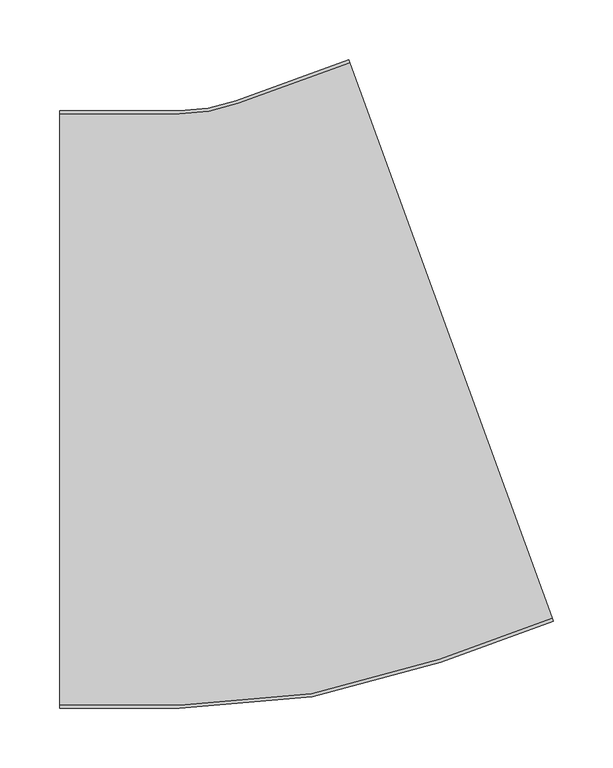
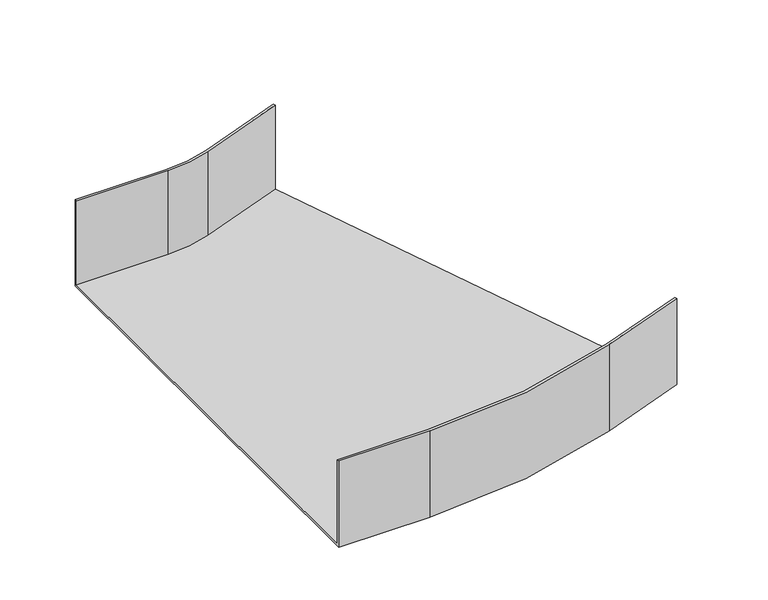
"""IFC4 building model written with IfcOpenShell, lengths in millimetres: cable carrier fitting geometry, BAKS_Horizontal bend radius : KKPP/KKMPP_H100."""

import ifcopenshell
import ifcopenshell.guid

model = None  # the IFC model being written
_history = None  # IfcOwnerHistory: only IFC2X3 demands one
_inside = {}  # id of a spatial element -> (the spatial element, [elements in it])
_under = {}  # id of a project, library or spatial element -> (it, [spatial elements below it])
_declared = {}  # id of a project -> (the project, [libraries it declares])
_typed = {}  # id of a type object -> (the type object, [elements of that type])
_made_of = {}  # id of a material, layer set ... -> (it, [elements and type objects made of it])


def new_model(schema):
    """Start an empty IFC model of exactly this schema.

    Asked for "IFC4X3", IfcOpenShell would pick the latest addendum, in which some entities
    have other attributes; the version numbers below select the first issue.
    IFC2X3 requires an IfcOwnerHistory on every rooted entity: one is made here for all.
    """
    global model, _history
    if schema == "IFC4X3":
        model = ifcopenshell.file(schema_version=(4, 3, 0, 0))
    else:
        model = ifcopenshell.file(schema=schema)
    _inside.clear()
    _under.clear()
    _declared.clear()
    _typed.clear()
    _made_of.clear()
    _history = None
    if model.schema == "IFC2X3":
        org = make("IfcOrganization", Name="unknown")
        user = make(
            "IfcPersonAndOrganization",
            ThePerson=make("IfcPerson", FamilyName="unknown"),
            TheOrganization=org,
        )
        app = make(
            "IfcApplication",
            ApplicationDeveloper=org,
            Version="unknown",
            ApplicationFullName="unknown",
            ApplicationIdentifier="unknown",
        )
        _history = make(
            "IfcOwnerHistory",
            OwningUser=user,
            OwningApplication=app,
            ChangeAction="ADDED",
            CreationDate=0,
        )
    return model


def make(cls, **values):
    """One entity of the class cls with the attributes given. An attribute that is None is left unset."""
    return model.create_entity(
        cls, **{name: value for name, value in values.items() if value is not None}
    )


def rooted(cls, **values):
    """An entity with a GlobalId (a new one), such as an element, a storey or a relation."""
    return make(cls, GlobalId=ifcopenshell.guid.new(), OwnerHistory=_history, **values)


def si_unit(unit_type, name, prefix=None):
    """IfcSIUnit, for example si_unit("LENGTHUNIT", "METRE", prefix="MILLI")."""
    return make("IfcSIUnit", UnitType=unit_type, Prefix=prefix, Name=name)


def assignment(units):
    """IfcUnitAssignment: the units of a project."""
    return None if units is None else make("IfcUnitAssignment", Units=units)


def point(xyz):
    """IfcCartesianPoint."""
    return None if xyz is None else make("IfcCartesianPoint", Coordinates=xyz)


def direction(xyz):
    """IfcDirection."""
    return None if xyz is None else make("IfcDirection", DirectionRatios=xyz)


def frame(location, z_axis=None, x_axis=None):
    """IfcAxis2Placement3D, a coordinate frame: its origin and axes. An axis left out is left unset."""
    return make(
        "IfcAxis2Placement3D",
        Location=point(location),
        Axis=direction(z_axis),
        RefDirection=direction(x_axis),
    )


def origin():
    """The frame at (0, 0, 0) with its axes left unset."""
    return frame((0.0, 0.0, 0.0))


def place(relative_to, where):
    """IfcLocalPlacement: puts the frame where relative to a parent placement (None: the world)."""
    return make(
        "IfcLocalPlacement", PlacementRelTo=relative_to, RelativePlacement=where
    )


def context(
    kind, dimensions, precision=None, world=None, true_north=None, identifier=None
):
    """IfcGeometricRepresentationContext, for example the 3D "Model" context."""
    return make(
        "IfcGeometricRepresentationContext",
        ContextIdentifier=identifier,
        ContextType=kind,
        CoordinateSpaceDimension=dimensions,
        Precision=precision,
        WorldCoordinateSystem=world,
        TrueNorth=true_north,
    )


def project(units=None, contexts=None):
    """IfcProject with its units and contexts."""
    return rooted(
        "IfcProject",
        Name="project",
        RepresentationContexts=contexts,
        UnitsInContext=assignment(units),
    )


def spatial(cls, under=None, at=None, **own):
    """A site, building, storey or space (cls), placed at a placement, below another one or the project."""
    s = rooted(cls, ObjectPlacement=at, **own)
    if under is not None:
        _under.setdefault(under.id(), (under, []))[1].append(s)
    return s


def polyline(points):
    """IfcPolyline through the points."""
    return make("IfcPolyline", Points=[point(p) for p in points])


def circle_curve(where, radius):
    """IfcCircle in the frame where."""
    return make("IfcCircle", Position=where, Radius=radius)


def shape(context_of_items, identifier, shape_type, items):
    """IfcShapeRepresentation: the items that make up one representation, for example the "Body"."""
    return make(
        "IfcShapeRepresentation",
        ContextOfItems=context_of_items,
        RepresentationIdentifier=identifier,
        RepresentationType=shape_type,
        Items=items,
    )


def source(mapping_origin, context_of_items, identifier, shape_type, items):
    """IfcRepresentationMap: a shape defined once, which mapped items show again and again."""
    return make(
        "IfcRepresentationMap",
        MappingOrigin=mapping_origin,
        MappedRepresentation=shape(context_of_items, identifier, shape_type, items),
    )


def transform(
    local_origin,
    x_axis=None,
    y_axis=None,
    z_axis=None,
    scale=None,
    scale2=None,
    scale3=None,
    uniform=True,
):
    """IfcCartesianTransformationOperator3D, or its non-uniform kind. x_axis, y_axis, z_axis: its Axis1, 2, 3."""
    if uniform:
        return make(
            "IfcCartesianTransformationOperator3D",
            Axis1=direction(x_axis),
            Axis2=direction(y_axis),
            LocalOrigin=point(local_origin),
            Scale=scale,
            Axis3=direction(z_axis),
        )
    return make(
        "IfcCartesianTransformationOperator3DnonUniform",
        Axis1=direction(x_axis),
        Axis2=direction(y_axis),
        LocalOrigin=point(local_origin),
        Scale=scale,
        Axis3=direction(z_axis),
        Scale2=scale2,
        Scale3=scale3,
    )


def mapped(mapping_source, mapping_target):
    """IfcMappedItem: shows the shape of a source again, moved by a transform."""
    return make(
        "IfcMappedItem", MappingSource=mapping_source, MappingTarget=mapping_target
    )


def made_of(thing, what):
    """Note that an element or type object is made of a material, layer set ...; save() writes the relation."""
    if what is not None:
        _made_of.setdefault(what.id(), (what, []))[1].append(thing)
    return thing


def element(
    cls,
    number,
    at=None,
    inside=None,
    cuts=None,
    type_object=None,
    material=None,
    context=None,
    identifier="Body",
    shape_type=None,
    held_by="IfcProductDefinitionShape",
    body=None,
    shapes=None,
    **own,
):
    """One element of the class cls, such as IfcWall. Its Tag is "e" and its number.

    at: its placement. inside: the storey or other place that contains it. cuts: it is an
    opening in that element (IfcRelVoidsElement). A single representation is given by context,
    identifier, shape_type and body (its items); several are given by shapes. held_by: the class
    of the entity that holds the representations. save() writes the other relations.
    """
    e = rooted(cls, Tag="e%d" % number, ObjectPlacement=at, **own)
    if body is not None:
        shapes = [shape(context, identifier, shape_type, body)]
    if shapes is not None:
        e.Representation = make(held_by, Representations=shapes)
    if inside is not None:
        _inside.setdefault(inside.id(), (inside, []))[1].append(e)
    if cuts is not None:
        rooted(
            "IfcRelVoidsElement", RelatingBuildingElement=cuts, RelatedOpeningElement=e
        )
    if type_object is not None:
        _typed.setdefault(type_object.id(), (type_object, []))[1].append(e)
    return made_of(e, material)


def aggregate(whole, parts):
    """IfcRelAggregates: a whole, such as a stair, and the parts it consists of."""
    return rooted("IfcRelAggregates", RelatingObject=whole, RelatedObjects=parts)


def save(model, path):
    """Write the relations noted so far, then the file.

    IfcRelAggregates (storeys below a building ...), IfcRelContainedInSpatialStructure (elements
    in a storey), IfcRelDefinesByType, IfcRelAssociatesMaterial and IfcRelDeclares: one each for
    every whole, place, type object, material and project.
    """
    for whole, parts in _under.values():
        aggregate(whole, parts)
    for where, things in _inside.values():
        rooted(
            "IfcRelContainedInSpatialStructure",
            RelatedElements=things,
            RelatingStructure=where,
        )
    for kind, things in _typed.values():
        rooted("IfcRelDefinesByType", RelatedObjects=things, RelatingType=kind)
    for what, things in _made_of.values():
        rooted("IfcRelAssociatesMaterial", RelatedObjects=things, RelatingMaterial=what)
    for by, libraries in _declared.values():
        rooted("IfcRelDeclares", RelatingContext=by, RelatedDefinitions=libraries)
    model.write(path)


def plane_surface(at):
    """IfcPlane: the flat surface through the origin of the frame at, square to its z axis."""
    return make("IfcPlane", Position=at)


def cylinder_surface(at, radius):
    """IfcCylindricalSurface: all points at the distance radius from the z axis of the frame at."""
    return make("IfcCylindricalSurface", Position=at, Radius=radius)


def revolved_surface(curve, axis_point, axis_direction):
    """IfcSurfaceOfRevolution: the curve turned about the line through axis_point along axis_direction."""
    return make(
        "IfcSurfaceOfRevolution",
        SweptCurve=make("IfcArbitraryOpenProfileDef", ProfileType="CURVE", Curve=curve),
        AxisPosition=make("IfcAxis1Placement", Location=point(axis_point), Axis=direction(axis_direction)),
    )


def advanced_brep(points, edges, surfaces, faces):
    """IfcAdvancedBrep: a solid bounded by faces that lie on surfaces and meet in shared edges.

    An edge is (start, end): straight between two places in points (the first is 0);
    or (start, end, curve); or (start, end, curve, False) where it runs against its curve.
    A face is (place in surfaces, loops), or (place, loops, False) where it looks against
    its surface's normal. A loop lists edges by number (the first is 1), with a minus sign
    where the edge is run from its end to its start. The first loop is the outer one.
    """
    corners = [point(p) for p in points]
    vertices = [make("IfcVertexPoint", VertexGeometry=c) for c in corners]
    made = []
    for start, end, *more in edges:
        made.append(
            make(
                "IfcEdgeCurve",
                EdgeStart=vertices[start],
                EdgeEnd=vertices[end],
                EdgeGeometry=more[0] if more else make("IfcPolyline", Points=[corners[start], corners[end]]),
                SameSense=more[1] if len(more) > 1 else True,
            )
        )
    hull = []
    for where, loops, *sense in faces:
        bounds = []
        for j, loop in enumerate(loops):
            ring = [make("IfcOrientedEdge", EdgeElement=made[abs(k) - 1], Orientation=k > 0) for k in loop]
            bounds.append(
                make(
                    "IfcFaceOuterBound" if j == 0 else "IfcFaceBound",
                    Bound=make("IfcEdgeLoop", EdgeList=ring),
                    Orientation=True,
                )
            )
        hull.append(make("IfcAdvancedFace", Bounds=bounds, FaceSurface=surfaces[where], SameSense=sense[0] if sense else True))
    return make("IfcAdvancedBrep", Outer=make("IfcClosedShell", CfsFaces=hull))


def cable_carrier_fitting_ec34a846(model_context):
    return source(origin(), model_context, "Body", "AdvancedBrep", [
        advanced_brep(
        [(-168.7675225, -250.0, -50.0), (-168.7675225, -250.0, 50.0), (-168.7675225, -247.46, 50.0), (-168.7675225, -247.46, -47.46), (-168.7675225, 247.46, -47.46), (-168.7675225, 247.46, 50.0), (-168.7675225, 250.0, 50.0), (-168.7675225, 250.0, -50.0), (244.0946313, -177.201263, -50.0), (73.0845597, 292.6450474, -50.0), (73.0845597, 292.6450474, 50.0), (73.9532908, 290.2582282, 50.0), (73.9532908, 290.2582282, -47.46), (243.2259002, -174.8144437, -47.46), (243.2259002, -174.8144437, 50.0), (244.0946313, -177.201263, 50.0), (-68.7675225, -250.0, -50.0), (-68.7675225, -250.0, 50.0), (150.1253693, -211.4032773, 50.0), (149.2566381, -209.0164581, 50.0), (-68.7675225, -247.46, 50.0), (-68.7675225, -247.46, -47.46), (149.2566381, -209.0164581, -47.46), (-20.0159713, 256.0562138, -47.46), (-68.7675225, 247.46, -47.46), (-68.7675225, 247.46, 50.0), (-20.0159713, 256.0562138, 50.0), (-20.8847024, 258.4430331, 50.0), (-68.7675225, 250.0, 50.0), (-68.7675225, 250.0, -50.0), (-20.8847024, 258.4430331, -50.0), (150.1253693, -211.4032773, -50.0)],
        [
            (0, 1),
            (1, 2),
            (2, 3),
            (3, 4),
            (4, 5),
            (5, 6),
            (6, 7),
            (7, 0),
            (8, 9),
            (9, 10),
            (10, 11),
            (11, 12),
            (12, 13),
            (13, 14),
            (14, 15),
            (15, 8),
            (0, 16),
            (16, 17),
            (17, 1),
            (17, 18, circle_curve(frame((-68.7675225, 390.0, 50.0), z_axis=(0.0, 0.0, 1.0), x_axis=(0.0, -1.0, 0.0)), 640.0)),
            (18, 15),
            (14, 19),
            (19, 20, circle_curve(frame((-68.7675225, 390.0, 50.0), z_axis=(0.0, 0.0, -1.0), x_axis=(0.0, -1.0, 0.0)), 637.46)),
            (20, 2),
            (20, 21),
            (21, 3),
            (21, 22, circle_curve(frame((-68.7675225, 390.0, -47.46), z_axis=(0.0, 0.0, 1.0), x_axis=(0.0, -1.0, 0.0)), 637.46)),
            (22, 13),
            (12, 23),
            (23, 24, circle_curve(frame((-68.7675225, 390.0, -47.46), z_axis=(0.0, 0.0, -1.0), x_axis=(0.0, -1.0, 0.0)), 142.54)),
            (24, 4),
            (24, 25),
            (25, 5),
            (25, 26, circle_curve(frame((-68.7675225, 390.0, 50.0), z_axis=(0.0, 0.0, 1.0), x_axis=(0.0, -1.0, 0.0)), 142.54)),
            (26, 11),
            (10, 27),
            (27, 28, circle_curve(frame((-68.7675225, 390.0, 50.0), z_axis=(0.0, 0.0, -1.0), x_axis=(0.0, -1.0, 0.0)), 140.0)),
            (28, 6),
            (28, 29),
            (29, 7),
            (29, 30, circle_curve(frame((-68.7675225, 390.0, -50.0), z_axis=(0.0, 0.0, 1.0), x_axis=(0.0, -1.0, 0.0)), 140.0)),
            (30, 9),
            (8, 31),
            (31, 16, circle_curve(frame((-68.7675225, 390.0, -50.0), z_axis=(0.0, 0.0, -1.0), x_axis=(0.0, -1.0, 0.0)), 640.0)),
            (31, 18),
            (19, 22),
            (23, 26),
            (27, 30),
        ],
        [
            plane_surface(frame((-168.7675225, 0.0, 0.0), z_axis=(-1.0, 0.0, 0.0), x_axis=(0.0, 0.0, 1.0))),
            plane_surface(frame((158.5895955, 57.7218922, 0.0), z_axis=(0.9396926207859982, 0.342020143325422, 0.0), x_axis=(0.0, 0.0, 1.0))),
            plane_surface(frame((-168.7675225, -250.0, -50.0), z_axis=(0.0, -1.0, 0.0), x_axis=(1.0, 0.0, 0.0))),
            plane_surface(frame((-168.7675225, -250.0, 50.0), z_axis=(0.0, 0.0, 1.0), x_axis=(1.0, 0.0, 0.0))),
            plane_surface(frame((-168.7675225, -247.46, 50.0), z_axis=(0.0, 1.0, 0.0), x_axis=(1.0, 0.0, 0.0))),
            plane_surface(frame((-168.7675225, -247.46, -47.46), z_axis=(0.0, 0.0, 1.0), x_axis=(1.0, 0.0, 0.0))),
            plane_surface(frame((-168.7675225, 247.46, -47.46), z_axis=(0.0, -1.0, 0.0), x_axis=(1.0, 0.0, 0.0))),
            plane_surface(frame((-168.7675225, 247.46, 50.0), z_axis=(0.0, 0.0, 1.0), x_axis=(1.0, 0.0, 0.0))),
            plane_surface(frame((-168.7675225, 250.0, 50.0), z_axis=(0.0, 1.0, 0.0), x_axis=(1.0, 0.0, 0.0))),
            plane_surface(frame((-168.7675225, 250.0, -50.0), z_axis=(0.0, 0.0, -1.0), x_axis=(1.0, 0.0, 0.0))),
            cylinder_surface(frame((-68.7675225, 390.0, 0.0), z_axis=(0.0, 0.0, 1.0), x_axis=(0.0, -1.0, 0.0)), 640.0),
            revolved_surface(polyline([(-68.7675225, -247.46000000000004, 50.0), (-68.7675225, -247.46000000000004, -47.46)]), (-68.7675225, 390.0, 0.0), (0.0, 0.0, 1.0)),
            cylinder_surface(frame((-68.7675225, 390.0, 0.0), z_axis=(0.0, 0.0, 1.0), x_axis=(0.0, -1.0, 0.0)), 142.54),
            revolved_surface(polyline([(-68.7675225, 250.0, 50.0), (-68.7675225, 250.0, -50.0)]), (-68.7675225, 390.0, 0.0), (0.0, 0.0, 1.0)),
            plane_surface(frame((150.1253693, -211.4032773, -50.0), z_axis=(0.34202014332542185, -0.9396926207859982, 0.0), x_axis=(0.9396926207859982, 0.34202014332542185, 0.0))),
            plane_surface(frame((149.2566381, -209.0164581, 50.0), z_axis=(-0.3420201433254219, 0.9396926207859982, 0.0), x_axis=(0.9396926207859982, 0.3420201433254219, 0.0))),
            plane_surface(frame((-20.0159713, 256.0562138, -47.46), z_axis=(0.3420201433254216, -0.9396926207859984, 0.0), x_axis=(0.9396926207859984, 0.3420201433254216, 0.0))),
            plane_surface(frame((-20.8847024, 258.4430331, 50.0), z_axis=(-0.34202014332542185, 0.9396926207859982, 0.0), x_axis=(0.9396926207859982, 0.34202014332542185, 0.0))),
        ],
        [
            (0, [[1, 2, 3, 4, 5, 6, 7, 8]]),
            (1, [[9, 10, 11, 12, 13, 14, 15, 16]]),
            (2, [[-1, 17, 18, 19]]),
            (3, [[-2, -19, 20, 21, -15, 22, 23, 24]]),
            (4, [[-3, -24, 25, 26]]),
            (5, [[-4, -26, 27, 28, -13, 29, 30, 31]]),
            (6, [[-5, -31, 32, 33]]),
            (7, [[-6, -33, 34, 35, -11, 36, 37, 38]]),
            (8, [[-7, -38, 39, 40]]),
            (9, [[-8, -40, 41, 42, -9, 43, 44, -17]]),
            (10, [[-20, -18, -44, 45]]),
            (11, [[-27, -25, -23, 46]]),
            (12, [[-34, -32, -30, 47]]),
            (13, [[-41, -39, -37, 48]]),
            (14, [[-45, -43, -16, -21]]),
            (15, [[-46, -22, -14, -28]]),
            (16, [[-47, -29, -12, -35]]),
            (17, [[-48, -36, -10, -42]]),
        ],
    ),
    ])


if __name__ == "__main__":
    model = new_model("IFC4")
    model_context = context("Model", 3, world=origin())
    ifc_project = project(units=[si_unit("LENGTHUNIT", "METRE", prefix="MILLI")], contexts=[model_context])
    site = spatial("IfcSite", under=ifc_project)
    building = spatial("IfcBuilding", under=site)
    placement = place(None, origin())
    cable_carrier_fitting_shape = cable_carrier_fitting_ec34a846(model_context)
    element("IfcCableCarrierFitting", 1, ObjectType="BAKS_Horizontal bend radius : KKPP/KKMPP_H100", at=placement, inside=building, context=model_context, shape_type="MappedRepresentation", body=[
        mapped(cable_carrier_fitting_shape, transform((0.0, 0.0, 0.0), x_axis=(1.0, 0.0, 0.0), y_axis=(0.0, 1.0, 0.0), z_axis=(0.0, 0.0, 1.0))),
    ])
    save(model, "model.ifc")
